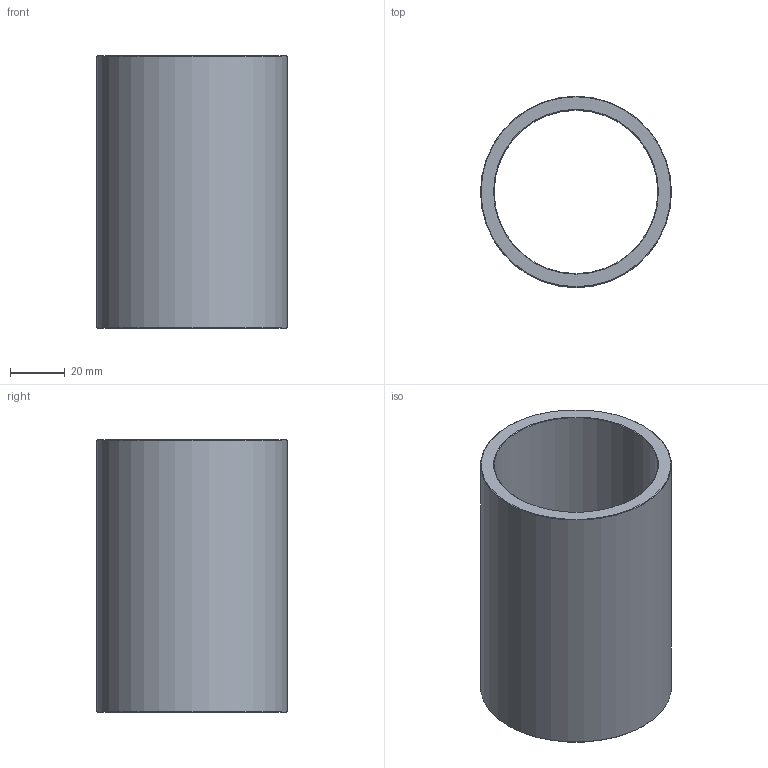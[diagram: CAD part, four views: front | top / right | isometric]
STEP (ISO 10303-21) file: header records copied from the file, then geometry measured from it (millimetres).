
FILE_DESCRIPTION(('STEP AP203'),'1');
FILE_NAME('C:/Users/Rodrigo/Desktop/GA5.060.100-1.step','2016-11-08T12:42:42',(' '),(' '),'Spatial InterOp 3D',' ',' ');
FILE_SCHEMA(('CONFIG_CONTROL_DESIGN'));
Length unit declared in the file: millimetre
Products named in the file (1): 1
Bounding box: 70 x 70 x 100 mm (x, y, z)
Volume: 102085.4 mm3; surface area: 42787 mm2
Topology: 1 solids, 1 shells, 8 faces, 14 edges, 8 vertices
Faces by surface type: cone 4, cylinder 2, plane 2
Full cylindrical faces by diameter (mm): 60 x1, 70 x1
Entity records: 212 total; most frequent: DIRECTION 34, CARTESIAN_POINT 25, AXIS2_PLACEMENT_3D 17, EDGE_LOOP 16, ORIENTED_EDGE 16, FACE_OUTER_BOUND 10, ADVANCED_FACE 8, EDGE_CURVE 8
